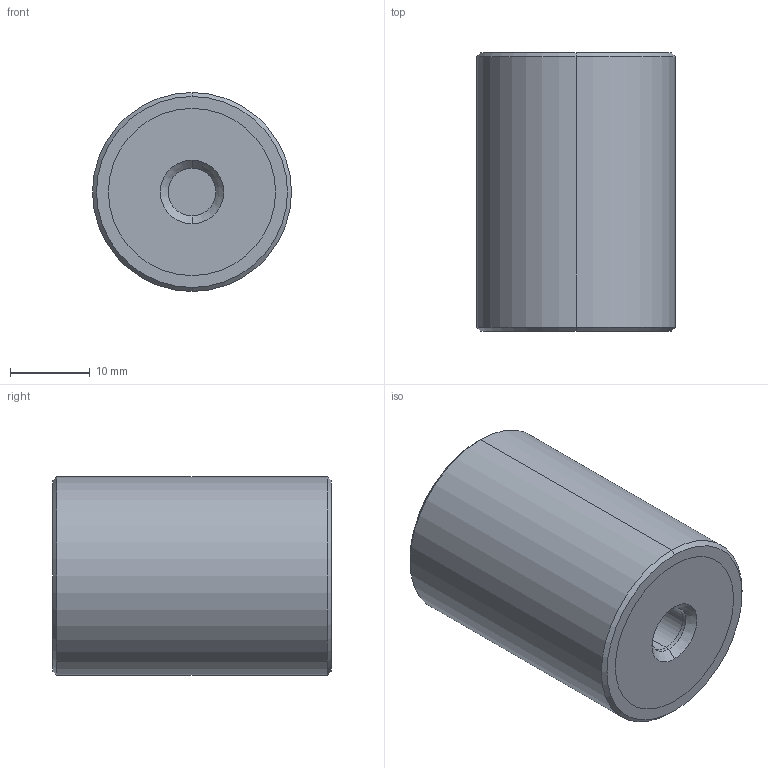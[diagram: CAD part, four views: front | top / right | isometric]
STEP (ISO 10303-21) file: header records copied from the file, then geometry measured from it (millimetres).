
FILE_DESCRIPTION (( 'STEP AP203' ), '1' );
FILE_NAME ('61080.W0254.step', '2018-07-16T20:43:36', ( '' ), ( '' ), 'SwSTEP 2.0', 'SolidWorks 2017', '' );
FILE_SCHEMA (( 'CONFIG_CONTROL_DESIGN' ));
Length unit declared in the file: millimetre
Products named in the file (4): Part2_61080.W0254; Part3_61080.W0254; Part1_61080.W0254; 61080.W0254
Assembly tree (3 placements, depth 2):
  61080.W0254
    Part1_61080.W0254
    Part2_61080.W0254
    Part3_61080.W0254
Bounding box: 25 x 35 x 25 mm (x, y, z)
Volume: 16801 mm3; surface area: 5558.9 mm2
Topology: 3 solids, 3 shells, 36 faces, 70 edges, 44 vertices
Faces by surface type: cylinder 18, plane 10, cone 8
Entity records: 1356 total; most frequent: DIRECTION 198, CARTESIAN_POINT 156, ORIENTED_EDGE 140, AXIS2_PLACEMENT_3D 86, EDGE_CURVE 70, EDGE_LOOP 44, VERTEX_POINT 44, CIRCLE 44
